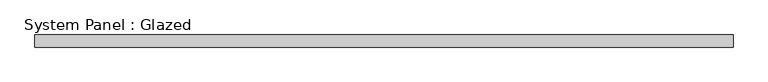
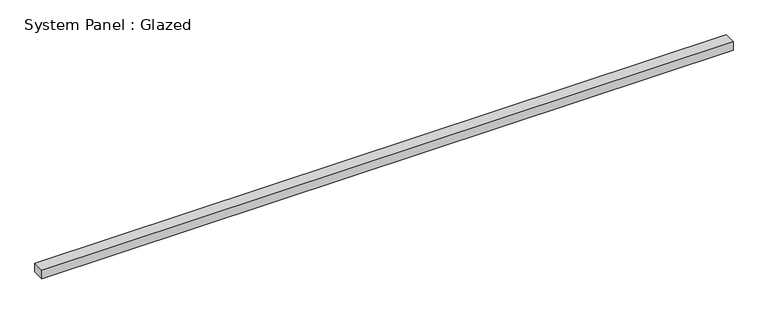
"""IFC4 building model written with IfcOpenShell, lengths in millimetres: plate geometry, System Panel : Glazed."""

from ifc_helpers import new_model, si_unit, origin, origin_with_axes, place, context, project, spatial, polyline, outline, extrude, source, transform, mapped, element, save


def system_panel_glazed_24e33e6b(model_context):
    return source(origin(), model_context, "Body", "SweptSolid", [
        extrude(outline(polyline([(730.25, 19.05), (-730.25, 19.05), (-730.25, 44.45), (730.25, 44.45), (730.25, 19.05)])), origin_with_axes(), (0.0, 0.0, 1.0), 19.05),
    ])


if __name__ == "__main__":
    model = new_model("IFC4")
    model_context = context("Model", 3, world=origin())
    ifc_project = project(units=[si_unit("LENGTHUNIT", "METRE", prefix="MILLI")], contexts=[model_context])
    site = spatial("IfcSite", under=ifc_project)
    building = spatial("IfcBuilding", under=site)
    placement = place(None, origin())
    system_panel_glazed_shape = system_panel_glazed_24e33e6b(model_context)
    element("IfcPlate", 1, ObjectType="System Panel : Glazed", at=placement, inside=building, context=model_context, shape_type="MappedRepresentation", body=[
        mapped(system_panel_glazed_shape, transform((0.0, 0.0, 0.0), x_axis=(1.0, 0.0, 0.0), y_axis=(0.0, 1.0, 0.0), z_axis=(0.0, 0.0, 1.0))),
    ])
    save(model, "model.ifc")
